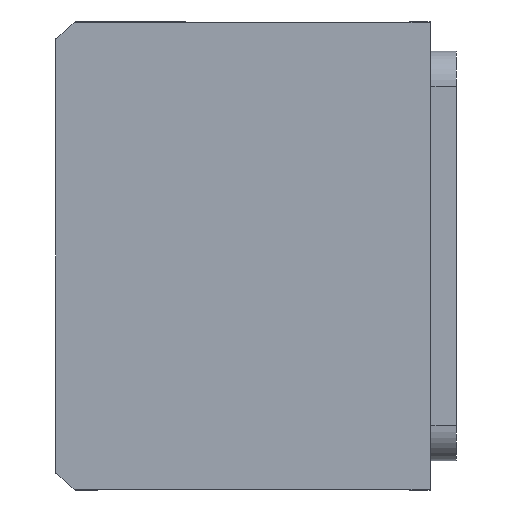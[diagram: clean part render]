
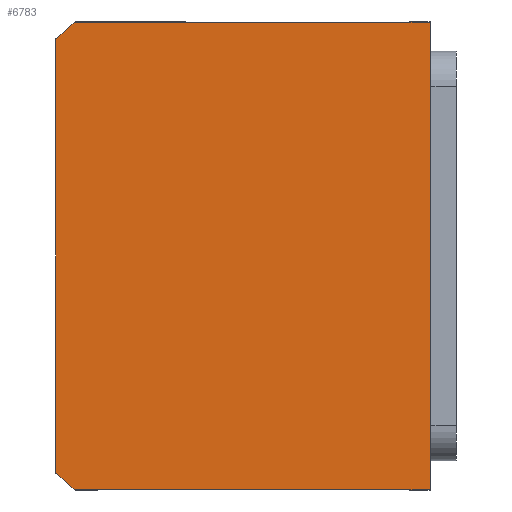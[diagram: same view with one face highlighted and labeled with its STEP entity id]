
A CAD part, front view. The second image highlights one B-rep face of the part: STEP entity #6783.
In plain terms, the highlighted planar face has unit normal (0, -1, 0) as drawn and (0, 0, -1) by its records, which use the part's own axes.
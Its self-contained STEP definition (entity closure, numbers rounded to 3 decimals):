
#588 = CARTESIAN_POINT ( 'NONE',  ( -40., 32., 0. ) ) ;
#683 = DIRECTION ( 'NONE',  ( 1., 0., 0. ) ) ;
#690 = CARTESIAN_POINT ( 'NONE',  ( 40., 32., 0. ) ) ;
#1009 = VERTEX_POINT ( 'NONE', #13599 ) ;
#1202 = ORIENTED_EDGE ( 'NONE', *, *, #3925, .F. ) ;
#1245 = EDGE_CURVE ( 'NONE', #7221, #8434, #12541, .T. ) ;
#1261 = EDGE_CURVE ( 'NONE', #1009, #7888, #1454, .T. ) ;
#1454 = CIRCLE ( 'NONE', #12757, 51. ) ;
#1465 = LINE ( 'NONE', #7925, #10041 ) ;
#1539 = CARTESIAN_POINT ( 'NONE',  ( -37.094, -32., 0. ) ) ;
#1554 = DIRECTION ( 'NONE',  ( 0., 1., 0. ) ) ;
#1634 = AXIS2_PLACEMENT_3D ( 'NONE', #8817, #2392, #9898 ) ;
#1831 = ORIENTED_EDGE ( 'NONE', *, *, #2032, .F. ) ;
#2032 = EDGE_CURVE ( 'NONE', #7888, #7221, #9164, .T. ) ;
#2392 = DIRECTION ( 'NONE',  ( 0., 0., 1. ) ) ;
#2620 = DIRECTION ( 'NONE',  ( 1., 0., 0. ) ) ;
#3111 = CARTESIAN_POINT ( 'NONE',  ( 0., 0., 0. ) ) ;
#3470 = VECTOR ( 'NONE', #1554, 1000. ) ;
#3925 = EDGE_CURVE ( 'NONE', #8434, #11023, #11885, .T. ) ;
#4220 = ORIENTED_EDGE ( 'NONE', *, *, #1261, .F. ) ;
#4247 = DIRECTION ( 'NONE',  ( 0., 0., 1. ) ) ;
#4342 = VECTOR ( 'NONE', #8093, 1000. ) ;
#4695 = ORIENTED_EDGE ( 'NONE', *, *, #5916, .F. ) ;
#4821 = VERTEX_POINT ( 'NONE', #1539 ) ;
#5021 = CARTESIAN_POINT ( 'NONE',  ( -40., 32., 0. ) ) ;
#5916 = EDGE_CURVE ( 'NONE', #4821, #1009, #1465, .T. ) ;
#6146 = ORIENTED_EDGE ( 'NONE', *, *, #9703, .F. ) ;
#6305 = VECTOR ( 'NONE', #12558, 1000. ) ;
#6330 = ORIENTED_EDGE ( 'NONE', *, *, #1245, .F. ) ;
#6783 = ADVANCED_FACE ( 'NONE', ( #10712 ), #10671, .F. ) ;
#7114 = DIRECTION ( 'NONE',  ( 0., 0., 1. ) ) ;
#7221 = VERTEX_POINT ( 'NONE', #690 ) ;
#7888 = VERTEX_POINT ( 'NONE', #10311 ) ;
#7925 = CARTESIAN_POINT ( 'NONE',  ( -40., -32., 0. ) ) ;
#7993 = CARTESIAN_POINT ( 'NONE',  ( 40., 32., 0. ) ) ;
#8093 = DIRECTION ( 'NONE',  ( -1., 0., 0. ) ) ;
#8434 = VERTEX_POINT ( 'NONE', #8958 ) ;
#8817 = CARTESIAN_POINT ( 'NONE',  ( 0., 3., 0. ) ) ;
#8958 = CARTESIAN_POINT ( 'NONE',  ( -40., 32., 0. ) ) ;
#9091 = AXIS2_PLACEMENT_3D ( 'NONE', #3111, #4247, #11747 ) ;
#9164 = LINE ( 'NONE', #7993, #3470 ) ;
#9490 = EDGE_LOOP ( 'NONE', ( #6146, #1202, #6330, #1831, #4220, #4695 ) ) ;
#9703 = EDGE_CURVE ( 'NONE', #11023, #4821, #12267, .T. ) ;
#9898 = DIRECTION ( 'NONE',  ( 1., 0., 0. ) ) ;
#10041 = VECTOR ( 'NONE', #2620, 1000. ) ;
#10311 = CARTESIAN_POINT ( 'NONE',  ( 40., -28.639, 0. ) ) ;
#10671 = PLANE ( 'NONE',  #9091 ) ;
#10712 = FACE_OUTER_BOUND ( 'NONE', #9490, .T. ) ;
#11023 = VERTEX_POINT ( 'NONE', #11393 ) ;
#11393 = CARTESIAN_POINT ( 'NONE',  ( -40., -28.639, 0. ) ) ;
#11747 = DIRECTION ( 'NONE',  ( 1., 0., 0. ) ) ;
#11885 = LINE ( 'NONE', #5021, #6305 ) ;
#12267 = CIRCLE ( 'NONE', #1634, 51. ) ;
#12541 = LINE ( 'NONE', #588, #4342 ) ;
#12558 = DIRECTION ( 'NONE',  ( 0., -1., 0. ) ) ;
#12757 = AXIS2_PLACEMENT_3D ( 'NONE', #13546, #7114, #683 ) ;
#13546 = CARTESIAN_POINT ( 'NONE',  ( 0., 3., 0. ) ) ;
#13599 = CARTESIAN_POINT ( 'NONE',  ( 37.094, -32., 0. ) ) ;
